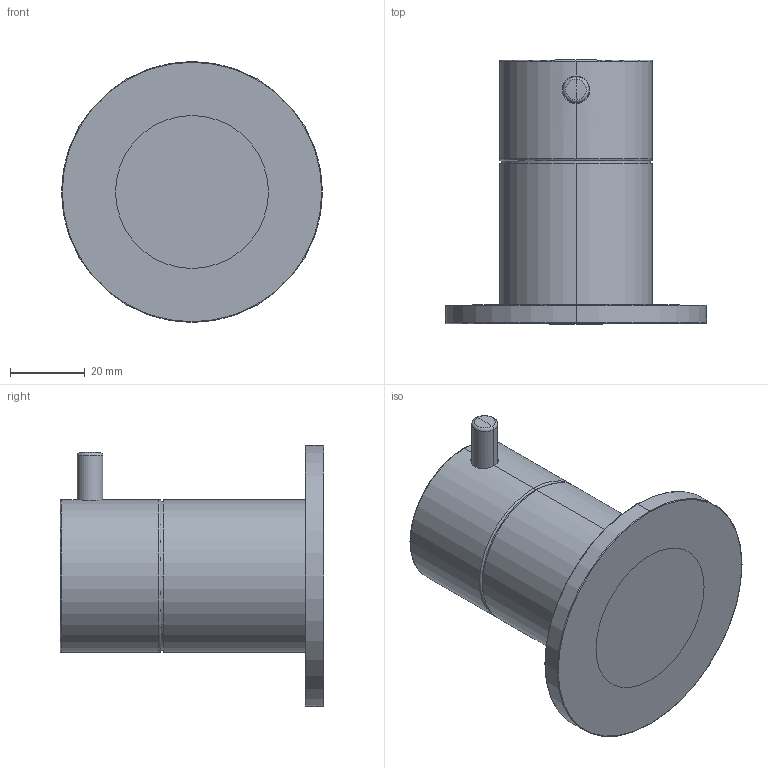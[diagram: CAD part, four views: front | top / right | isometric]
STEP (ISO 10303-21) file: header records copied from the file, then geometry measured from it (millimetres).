
FILE_DESCRIPTION((''),'2;1');
FILE_NAME('76708--00_SUB01_SW0001','2026-10-02T13:10:26',('simi1'),(''),'CREO PARAMETRIC BY PTC INC, 2022244','CREO PARAMETRIC BY PTC INC, 2022244','');
FILE_SCHEMA(('CONFIG_CONTROL_DESIGN'));
Length unit declared in the file: millimetre
Products named in the file (1): 76708--00_SUB01_SW0001
Bounding box: 70 x 70.7 x 70 mm (x, y, z)
Surface area: 21032.7 mm2 (no closed solid volume)
Topology: 0 solids, 5 shells, 26 faces, 63 edges, 37 vertices
Faces by surface type: torus 10, cylinder 10, plane 4, sphere 2
Entity records: 877 total; most frequent: CARTESIAN_POINT 228, DIRECTION 149, ORIENTED_EDGE 106, AXIS2_PLACEMENT_3D 68, EDGE_CURVE 61, CIRCLE 42, VERTEX_POINT 37, EDGE_LOOP 26
